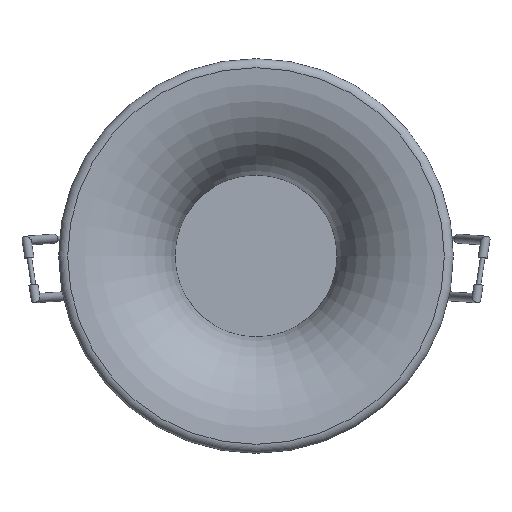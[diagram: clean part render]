
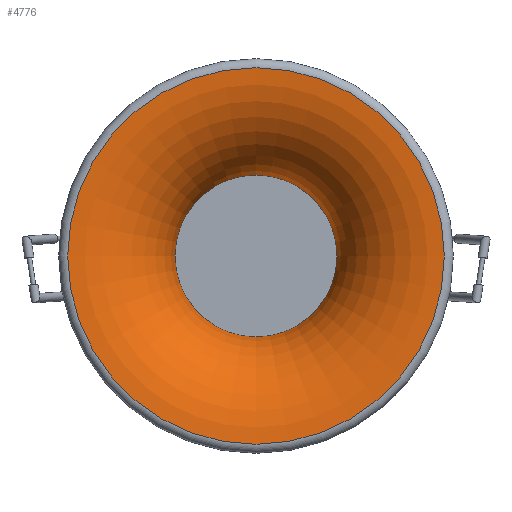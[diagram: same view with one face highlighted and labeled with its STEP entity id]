
A CAD part, front view. The second image highlights one B-rep face of the part: STEP entity #4776.
In plain terms, the highlighted toroidal (fillet/blend) face has major radius 41.5 mm and minor radius 24 mm.
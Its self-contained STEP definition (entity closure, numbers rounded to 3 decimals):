
#268=TOROIDAL_SURFACE('',#5189,41.5,24.);
#362=CIRCLE('',#5181,17.836);
#368=CIRCLE('',#5190,41.5);
#369=CIRCLE('',#5191,24.);
#755=FACE_OUTER_BOUND('',#1074,.T.);
#1074=EDGE_LOOP('',(#3415,#3416,#3417,#3418));
#2044=VERTEX_POINT('',#7518);
#2049=VERTEX_POINT('',#7533);
#2558=EDGE_CURVE('',#2044,#2044,#362,.T.);
#2565=EDGE_CURVE('',#2049,#2049,#368,.T.);
#2566=EDGE_CURVE('',#2049,#2044,#369,.T.);
#3415=ORIENTED_EDGE('',*,*,#2565,.F.);
#3416=ORIENTED_EDGE('',*,*,#2566,.T.);
#3417=ORIENTED_EDGE('',*,*,#2558,.T.);
#3418=ORIENTED_EDGE('',*,*,#2566,.F.);
#4776=ADVANCED_FACE('',(#755),#268,.T.);
#5181=AXIS2_PLACEMENT_3D('',#7519,#5976,#5977);
#5189=AXIS2_PLACEMENT_3D('',#7532,#5993,#5994);
#5190=AXIS2_PLACEMENT_3D('',#7534,#5995,#5996);
#5191=AXIS2_PLACEMENT_3D('',#7535,#5997,#5998);
#5976=DIRECTION('center_axis',(0.,1.,0.));
#5977=DIRECTION('ref_axis',(0.,0.,1.));
#5993=DIRECTION('center_axis',(0.,1.,0.));
#5994=DIRECTION('ref_axis',(0.,0.,1.));
#5995=DIRECTION('center_axis',(0.,1.,0.));
#5996=DIRECTION('ref_axis',(1.,0.,0.));
#5997=DIRECTION('center_axis',(-1.,0.,0.));
#5998=DIRECTION('ref_axis',(0.,0.,-1.));
#7518=CARTESIAN_POINT('',(0.,20.,-17.836));
#7519=CARTESIAN_POINT('Origin',(0.,20.,0.));
#7532=CARTESIAN_POINT('Origin',(0.,24.,0.));
#7533=CARTESIAN_POINT('',(0.,0.,-41.5));
#7534=CARTESIAN_POINT('Origin',(0.,0.,0.));
#7535=CARTESIAN_POINT('Origin',(0.,24.,-41.5));
